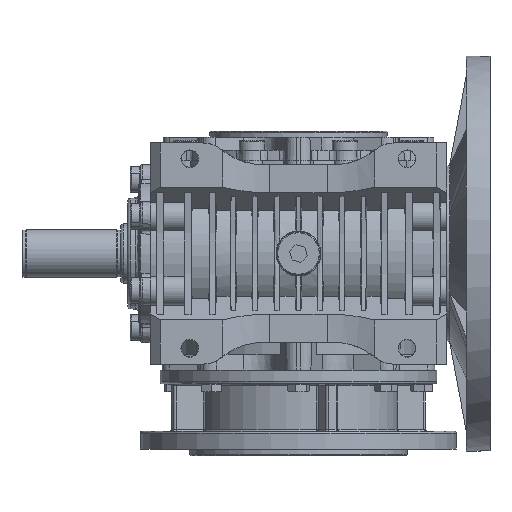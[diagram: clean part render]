
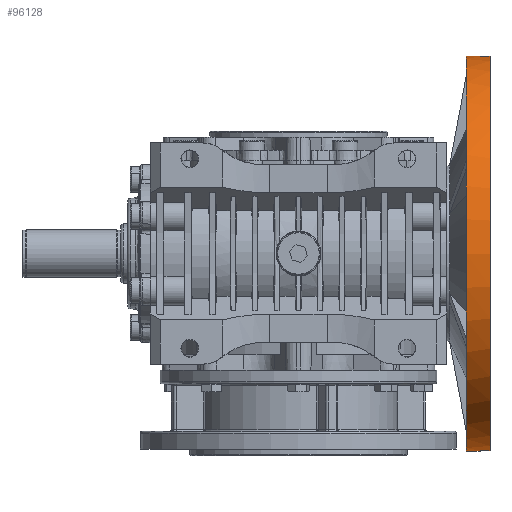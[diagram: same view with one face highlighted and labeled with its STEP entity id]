
A CAD part, front view. The second image highlights one B-rep face of the part: STEP entity #96128.
In plain terms, the highlighted cylindrical face has radius 100 mm (diameter 200 mm), a partial arc.
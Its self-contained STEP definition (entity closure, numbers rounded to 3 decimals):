
#130 = VERTEX_POINT ( 'NONE', #33526 ) ;
#4006 = CARTESIAN_POINT ( 'NONE',  ( 187.177, -69., -99.82 ) ) ;
#5799 = CARTESIAN_POINT ( 'NONE',  ( 92., -63., 0. ) ) ;
#10749 = ORIENTED_EDGE ( 'NONE', *, *, #17902, .F. ) ;
#11591 = CARTESIAN_POINT ( 'NONE',  ( 97., -69., -99.82 ) ) ;
#11617 = CIRCLE ( 'NONE', #42551, 100. ) ;
#11847 = DIRECTION ( 'NONE',  ( 0., 0., -1. ) ) ;
#14018 = DIRECTION ( 'NONE',  ( 0., 0., -1. ) ) ;
#15259 = CARTESIAN_POINT ( 'NONE',  ( 187.177, -69., 99.82 ) ) ;
#15778 = AXIS2_PLACEMENT_3D ( 'NONE', #41733, #99829, #14018 ) ;
#17119 = DIRECTION ( 'NONE',  ( 1., 0., 0. ) ) ;
#17902 = EDGE_CURVE ( 'NONE', #112761, #113002, #105503, .T. ) ;
#19585 = CARTESIAN_POINT ( 'NONE',  ( 92., -63., 0. ) ) ;
#23438 = AXIS2_PLACEMENT_3D ( 'NONE', #122950, #32085, #37187 ) ;
#23875 = EDGE_CURVE ( 'NONE', #96107, #46728, #52873, .T. ) ;
#32085 = DIRECTION ( 'NONE',  ( 1., 0., 0. ) ) ;
#33526 = CARTESIAN_POINT ( 'NONE',  ( 92., -63., -100. ) ) ;
#34009 = FACE_OUTER_BOUND ( 'NONE', #35860, .T. ) ;
#35860 = EDGE_LOOP ( 'NONE', ( #72512, #101916, #120569, #64010, #89992, #111524, #124474, #10749 ) ) ;
#36583 = DIRECTION ( 'NONE',  ( 1., 0., 0. ) ) ;
#37187 = DIRECTION ( 'NONE',  ( 0., 0., -1. ) ) ;
#41733 = CARTESIAN_POINT ( 'NONE',  ( 85., -63., 0. ) ) ;
#42551 = AXIS2_PLACEMENT_3D ( 'NONE', #5799, #45131, #45754 ) ;
#43321 = DIRECTION ( 'NONE',  ( -1., 0., 0. ) ) ;
#43685 = LINE ( 'NONE', #95268, #119339 ) ;
#45131 = DIRECTION ( 'NONE',  ( -1., 0., 0. ) ) ;
#45754 = DIRECTION ( 'NONE',  ( 0., 0., 1. ) ) ;
#46728 = VERTEX_POINT ( 'NONE', #96915 ) ;
#52848 = EDGE_CURVE ( 'NONE', #109049, #99832, #68666, .T. ) ;
#52873 = CIRCLE ( 'NONE', #15778, 100. ) ;
#54014 = CARTESIAN_POINT ( 'NONE',  ( 85., -63., 100. ) ) ;
#64010 = ORIENTED_EDGE ( 'NONE', *, *, #64734, .T. ) ;
#64734 = EDGE_CURVE ( 'NONE', #130, #70411, #11617, .T. ) ;
#67892 = DIRECTION ( 'NONE',  ( 1., 0., 0. ) ) ;
#68030 = CARTESIAN_POINT ( 'NONE',  ( 92., -69., -99.82 ) ) ;
#68666 = CIRCLE ( 'NONE', #124176, 100. ) ;
#70107 = CARTESIAN_POINT ( 'NONE',  ( 92., -63., 100. ) ) ;
#70411 = VERTEX_POINT ( 'NONE', #68030 ) ;
#72512 = ORIENTED_EDGE ( 'NONE', *, *, #76003, .F. ) ;
#73029 = LINE ( 'NONE', #4006, #76981 ) ;
#75716 = CARTESIAN_POINT ( 'NONE',  ( 97., -63., 0. ) ) ;
#76003 = EDGE_CURVE ( 'NONE', #96107, #112761, #116392, .T. ) ;
#76981 = VECTOR ( 'NONE', #43321, 1000. ) ;
#78969 = EDGE_CURVE ( 'NONE', #46728, #130, #43685, .T. ) ;
#82006 = EDGE_CURVE ( 'NONE', #113002, #109049, #96508, .T. ) ;
#89992 = ORIENTED_EDGE ( 'NONE', *, *, #97377, .F. ) ;
#93325 = CYLINDRICAL_SURFACE ( 'NONE', #23438, 100. ) ;
#94129 = VECTOR ( 'NONE', #17119, 1000. ) ;
#95170 = CARTESIAN_POINT ( 'NONE',  ( 92., -69., 99.82 ) ) ;
#95268 = CARTESIAN_POINT ( 'NONE',  ( 187.177, -63., -100. ) ) ;
#96107 = VERTEX_POINT ( 'NONE', #54014 ) ;
#96128 = ADVANCED_FACE ( 'NONE', ( #34009 ), #93325, .T. ) ;
#96306 = DIRECTION ( 'NONE',  ( 0., 0., -1. ) ) ;
#96508 = LINE ( 'NONE', #15259, #105310 ) ;
#96915 = CARTESIAN_POINT ( 'NONE',  ( 85., -63., -100. ) ) ;
#97377 = EDGE_CURVE ( 'NONE', #99832, #70411, #73029, .T. ) ;
#99829 = DIRECTION ( 'NONE',  ( 1., 0., 0. ) ) ;
#99832 = VERTEX_POINT ( 'NONE', #11591 ) ;
#101916 = ORIENTED_EDGE ( 'NONE', *, *, #23875, .T. ) ;
#103626 = DIRECTION ( 'NONE',  ( 1., 0., 0. ) ) ;
#105310 = VECTOR ( 'NONE', #103626, 1000. ) ;
#105503 = CIRCLE ( 'NONE', #113696, 100. ) ;
#108710 = CARTESIAN_POINT ( 'NONE',  ( 97., -69., 99.82 ) ) ;
#109049 = VERTEX_POINT ( 'NONE', #108710 ) ;
#111524 = ORIENTED_EDGE ( 'NONE', *, *, #52848, .F. ) ;
#112761 = VERTEX_POINT ( 'NONE', #70107 ) ;
#113002 = VERTEX_POINT ( 'NONE', #95170 ) ;
#113696 = AXIS2_PLACEMENT_3D ( 'NONE', #19585, #118213, #11847 ) ;
#116392 = LINE ( 'NONE', #117034, #94129 ) ;
#117034 = CARTESIAN_POINT ( 'NONE',  ( 187.177, -63., 100. ) ) ;
#118213 = DIRECTION ( 'NONE',  ( 1., 0., 0. ) ) ;
#119339 = VECTOR ( 'NONE', #36583, 1000. ) ;
#120569 = ORIENTED_EDGE ( 'NONE', *, *, #78969, .T. ) ;
#122950 = CARTESIAN_POINT ( 'NONE',  ( 187.177, -63., 0. ) ) ;
#124176 = AXIS2_PLACEMENT_3D ( 'NONE', #75716, #67892, #96306 ) ;
#124474 = ORIENTED_EDGE ( 'NONE', *, *, #82006, .F. ) ;
